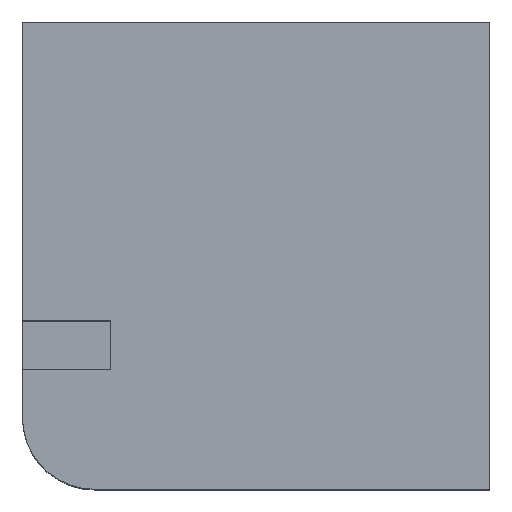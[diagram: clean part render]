
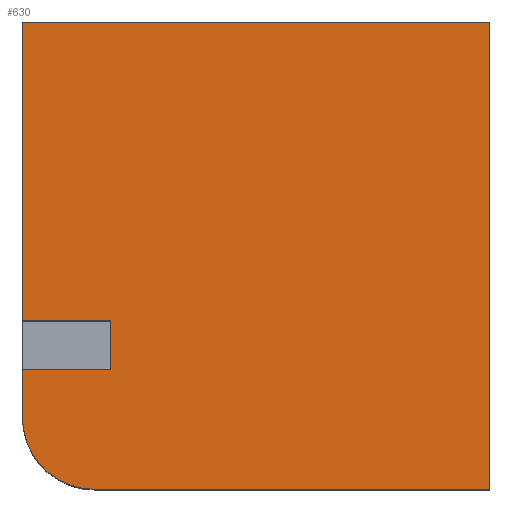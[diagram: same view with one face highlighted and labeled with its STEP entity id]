
A CAD part, top view. The second image highlights one B-rep face of the part: STEP entity #630.
In plain terms, the highlighted planar face has unit normal (0, 0, 1).
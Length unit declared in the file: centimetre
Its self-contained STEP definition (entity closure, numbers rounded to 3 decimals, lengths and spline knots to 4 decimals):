
#51 = LINE ( 'NONE', #1148, #1010 ) ;
#58 = VECTOR ( 'NONE', #204, 100. ) ;
#116 = LINE ( 'NONE', #588, #560 ) ;
#120 = LINE ( 'NONE', #576, #58 ) ;
#199 = LINE ( 'NONE', #914, #1068 ) ;
#204 = DIRECTION ( 'NONE',  ( -1., 0., 0. ) ) ;
#213 = DIRECTION ( 'NONE',  ( 0., 1., 0. ) ) ;
#219 = EDGE_CURVE ( 'NONE', #571, #893, #116, .T. ) ;
#239 = CARTESIAN_POINT ( 'NONE',  ( 188.563, 257.038, 1000. ) ) ;
#253 = ORIENTED_EDGE ( 'NONE', *, *, #1056, .T. ) ;
#254 = EDGE_CURVE ( 'NONE', #255, #571, #51, .T. ) ;
#255 = VERTEX_POINT ( 'NONE', #879 ) ;
#260 = VERTEX_POINT ( 'NONE', #662 ) ;
#279 = EDGE_CURVE ( 'NONE', #329, #804, #950, .T. ) ;
#295 = VECTOR ( 'NONE', #688, 100. ) ;
#310 = CARTESIAN_POINT ( 'NONE',  ( 1000., 0., 1000. ) ) ;
#322 = LINE ( 'NONE', #686, #1090 ) ;
#325 = LINE ( 'NONE', #857, #295 ) ;
#329 = VERTEX_POINT ( 'NONE', #743 ) ;
#413 = EDGE_CURVE ( 'NONE', #893, #427, #199, .T. ) ;
#427 = VERTEX_POINT ( 'NONE', #1102 ) ;
#446 = CARTESIAN_POINT ( 'NONE',  ( 153.5536, 153.5536, 1000. ) ) ;
#462 = DIRECTION ( 'NONE',  ( -1., 0., 0. ) ) ;
#490 = DIRECTION ( 'NONE',  ( 0., -1., 0. ) ) ;
#498 = EDGE_CURVE ( 'NONE', #260, #329, #325, .T. ) ;
#512 = VERTEX_POINT ( 'NONE', #1057 ) ;
#542 = CARTESIAN_POINT ( 'NONE',  ( 1000., 1000., 1000. ) ) ;
#560 = VECTOR ( 'NONE', #678, 100. ) ;
#561 = VECTOR ( 'NONE', #645, 100. ) ;
#571 = VERTEX_POINT ( 'NONE', #310 ) ;
#576 = CARTESIAN_POINT ( 'NONE',  ( 0., 360.7789, 1000. ) ) ;
#588 = CARTESIAN_POINT ( 'NONE',  ( 1000., 1000., 1000. ) ) ;
#626 = CARTESIAN_POINT ( 'NONE',  ( 0., 0., 1000. ) ) ;
#630 = ADVANCED_FACE ( 'NONE', ( #999 ), #906, .T. ) ;
#645 = DIRECTION ( 'NONE',  ( 0., -1., 0. ) ) ;
#648 = LINE ( 'NONE', #932, #561 ) ;
#662 = CARTESIAN_POINT ( 'NONE',  ( 0., 257.038, 1000. ) ) ;
#678 = DIRECTION ( 'NONE',  ( 0., 1., 0. ) ) ;
#686 = CARTESIAN_POINT ( 'NONE',  ( 0., 1000., 1000. ) ) ;
#688 = DIRECTION ( 'NONE',  ( 1., 0., 0. ) ) ;
#709 = ORIENTED_EDGE ( 'NONE', *, *, #998, .T. ) ;
#743 = CARTESIAN_POINT ( 'NONE',  ( 188.563, 257.038, 1000. ) ) ;
#759 = ORIENTED_EDGE ( 'NONE', *, *, #254, .T. ) ;
#796 = ORIENTED_EDGE ( 'NONE', *, *, #825, .T. ) ;
#799 = VECTOR ( 'NONE', #213, 100. ) ;
#804 = VERTEX_POINT ( 'NONE', #1096 ) ;
#810 = ORIENTED_EDGE ( 'NONE', *, *, #413, .T. ) ;
#816 = DIRECTION ( 'NONE',  ( 1., 0., 0. ) ) ;
#825 = EDGE_CURVE ( 'NONE', #260, #512, #648, .T. ) ;
#833 = AXIS2_PLACEMENT_3D ( 'NONE', #626, #1091, #816 ) ;
#857 = CARTESIAN_POINT ( 'NONE',  ( 0., 257.038, 1000. ) ) ;
#872 = DIRECTION ( 'NONE',  ( 1., 0., 0. ) ) ;
#879 = CARTESIAN_POINT ( 'NONE',  ( 153.5536, 0., 1000. ) ) ;
#893 = VERTEX_POINT ( 'NONE', #542 ) ;
#905 = AXIS2_PLACEMENT_3D ( 'NONE', #446, #909, #1161 ) ;
#906 = PLANE ( 'NONE',  #833 ) ;
#909 = DIRECTION ( 'NONE',  ( 0., 0., 1. ) ) ;
#914 = CARTESIAN_POINT ( 'NONE',  ( 0., 1000., 1000. ) ) ;
#932 = CARTESIAN_POINT ( 'NONE',  ( 0., 1000., 1000. ) ) ;
#950 = LINE ( 'NONE', #239, #799 ) ;
#953 = ORIENTED_EDGE ( 'NONE', *, *, #219, .T. ) ;
#958 = CARTESIAN_POINT ( 'NONE',  ( 0., 360.7789, 1000. ) ) ;
#964 = CIRCLE ( 'NONE', #905, 153.5536 ) ;
#976 = VERTEX_POINT ( 'NONE', #958 ) ;
#998 = EDGE_CURVE ( 'NONE', #427, #976, #322, .T. ) ;
#999 = FACE_OUTER_BOUND ( 'NONE', #1174, .T. ) ;
#1010 = VECTOR ( 'NONE', #872, 100. ) ;
#1056 = EDGE_CURVE ( 'NONE', #512, #255, #964, .T. ) ;
#1057 = CARTESIAN_POINT ( 'NONE',  ( 0., 153.5536, 1000. ) ) ;
#1068 = VECTOR ( 'NONE', #462, 100. ) ;
#1090 = VECTOR ( 'NONE', #490, 100. ) ;
#1091 = DIRECTION ( 'NONE',  ( 0., 0., 1. ) ) ;
#1096 = CARTESIAN_POINT ( 'NONE',  ( 188.563, 360.7789, 1000. ) ) ;
#1102 = CARTESIAN_POINT ( 'NONE',  ( 0., 1000., 1000. ) ) ;
#1110 = ORIENTED_EDGE ( 'NONE', *, *, #498, .F. ) ;
#1121 = ORIENTED_EDGE ( 'NONE', *, *, #1188, .F. ) ;
#1148 = CARTESIAN_POINT ( 'NONE',  ( 0., 0., 1000. ) ) ;
#1159 = ORIENTED_EDGE ( 'NONE', *, *, #279, .F. ) ;
#1161 = DIRECTION ( 'NONE',  ( 1., 0., 0. ) ) ;
#1174 = EDGE_LOOP ( 'NONE', ( #1121, #1159, #1110, #796, #253, #759, #953, #810, #709 ) ) ;
#1188 = EDGE_CURVE ( 'NONE', #804, #976, #120, .T. ) ;
